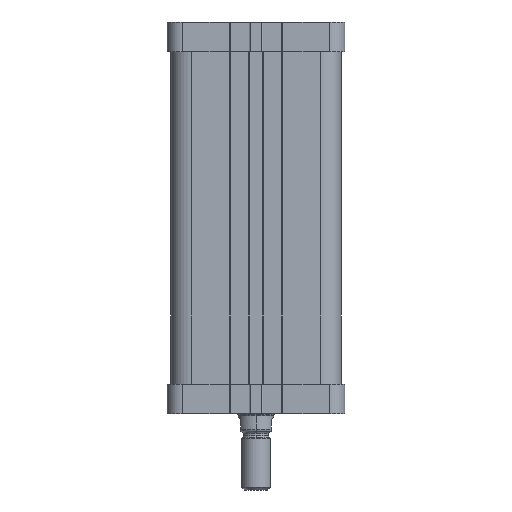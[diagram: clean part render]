
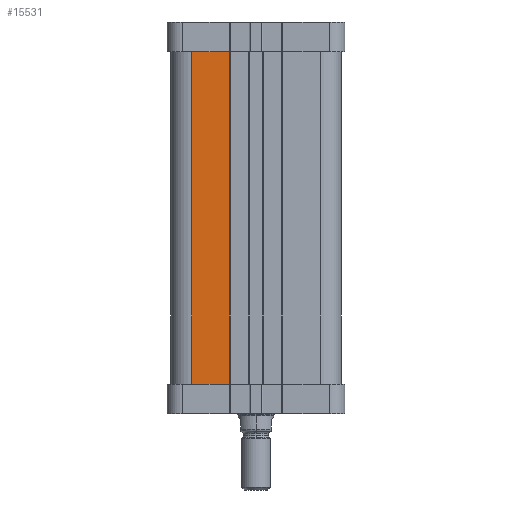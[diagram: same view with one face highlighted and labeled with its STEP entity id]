
A CAD part, left-side view. The second image highlights one B-rep face of the part: STEP entity #15531.
In plain terms, the highlighted planar face has unit normal (-1, 0, 0).
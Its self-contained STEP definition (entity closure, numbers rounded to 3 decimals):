
#8932=CARTESIAN_POINT('',(-28.25,-9.6,-11.6));
#8933=VERTEX_POINT('',#8932);
#8941=CARTESIAN_POINT('',(-28.25,11.5,-11.6));
#8942=VERTEX_POINT('',#8941);
#8943=CARTESIAN_POINT('',(-28.25,11.5,-11.6));
#8944=DIRECTION('',(0.0,-1.0,0.0));
#8945=VECTOR('',#8944,21.1);
#8946=LINE('',#8943,#8945);
#8947=EDGE_CURVE('',#8942,#8933,#8946,.T.);
#11426=CARTESIAN_POINT('',(-28.25,11.5,171.6));
#11427=VERTEX_POINT('',#11426);
#11435=CARTESIAN_POINT('',(-28.25,-9.6,171.6));
#11436=VERTEX_POINT('',#11435);
#11437=CARTESIAN_POINT('',(-28.25,-9.6,171.6));
#11438=DIRECTION('',(0.0,1.0,0.0));
#11439=VECTOR('',#11438,21.1);
#11440=LINE('',#11437,#11439);
#11441=EDGE_CURVE('',#11436,#11427,#11440,.T.);
#15449=CARTESIAN_POINT('',(-28.25,-9.6,171.6));
#15450=DIRECTION('',(0.0,0.0,-1.0));
#15451=VECTOR('',#15450,183.2);
#15452=LINE('',#15449,#15451);
#15453=EDGE_CURVE('',#11436,#8933,#15452,.T.);
#15515=CARTESIAN_POINT('',(-28.25,-59.5,-11.6));
#15516=DIRECTION('',(-1.0,0.0,0.0));
#15517=DIRECTION('',(0.0,0.0,1.0));
#15518=AXIS2_PLACEMENT_3D('',#15515,#15516,#15517);
#15519=PLANE('',#15518);
#15520=ORIENTED_EDGE('',*,*,#15453,.F.);
#15521=ORIENTED_EDGE('',*,*,#11441,.T.);
#15522=CARTESIAN_POINT('',(-28.25,11.5,-11.6));
#15523=DIRECTION('',(0.0,0.0,1.0));
#15524=VECTOR('',#15523,183.2);
#15525=LINE('',#15522,#15524);
#15526=EDGE_CURVE('',#8942,#11427,#15525,.T.);
#15527=ORIENTED_EDGE('',*,*,#15526,.F.);
#15528=ORIENTED_EDGE('',*,*,#8947,.T.);
#15529=EDGE_LOOP('',(#15520,#15521,#15527,#15528));
#15530=FACE_OUTER_BOUND('',#15529,.T.);
#15531=ADVANCED_FACE('',(#15530),#15519,.T.);
